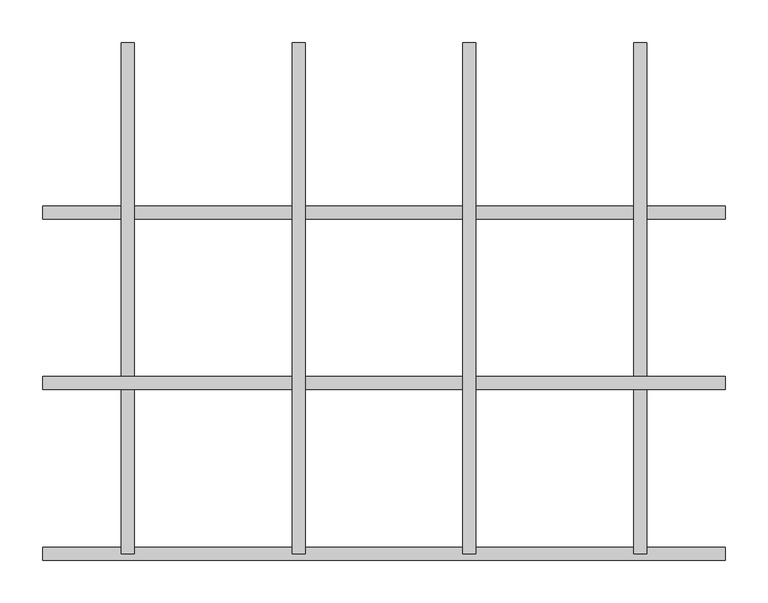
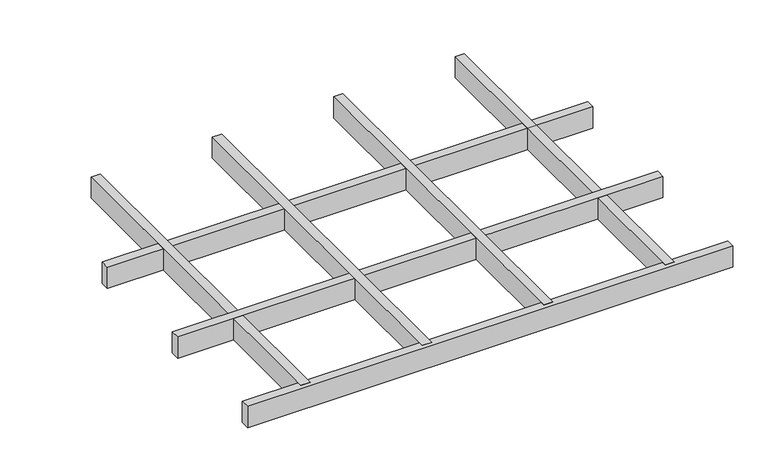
"""IFC4 building model written with IfcOpenShell, lengths in millimetres: proxy geometry, durlum_GEO_panel : durlum_GEO_15_length_cut."""

from ifc_helpers import new_model, si_unit, origin, origin_with_axes, place, context, project, spatial, polyline, outline, extrude, source, transform, mapped, element, save


def generic_models_711bea8a(model_context):
    return source(origin(), model_context, "Body", "SweptSolid", [
        extrude(outline(polyline([(92.5, 299.5), (107.5, 299.5), (107.5, -299.5), (92.5, -299.5), (92.5, 299.5)])), origin_with_axes(), (0.0, 0.0, 1.0), 37.0),
        extrude(outline(polyline([(-107.5, 299.5), (-92.5, 299.5), (-92.5, -299.5), (-107.5, -299.5), (-107.5, 299.5)])), origin_with_axes(), (0.0, 0.0, 1.0), 37.0),
        extrude(outline(polyline([(399.75, -92.0), (399.75, -107.0), (-399.75, -107.0), (-399.75, -92.0), (399.75, -92.0)])), origin_with_axes(), (0.0, 0.0, 1.0), 37.0),
        extrude(outline(polyline([(292.5, 299.5), (307.5, 299.5), (307.5, -299.5), (292.5, -299.5), (292.5, 299.5)])), origin_with_axes(), (0.0, 0.0, 1.0), 37.0),
        extrude(outline(polyline([(-307.5, 299.5), (-292.5, 299.5), (-292.5, -299.5), (-307.5, -299.5), (-307.5, 299.5)])), origin_with_axes(), (0.0, 0.0, 1.0), 37.0),
        extrude(outline(polyline([(399.75, -292.0), (399.75, -307.0), (-399.75, -307.0), (-399.75, -292.0), (399.75, -292.0)])), origin_with_axes(), (0.0, 0.0, 1.0), 37.0),
        extrude(outline(polyline([(399.75, 108.0), (399.75, 93.0), (-399.75, 93.0), (-399.75, 108.0), (399.75, 108.0)])), origin_with_axes(), (0.0, 0.0, 1.0), 37.0),
    ])


if __name__ == "__main__":
    model = new_model("IFC4")
    model_context = context("Model", 3, world=origin())
    ifc_project = project(units=[si_unit("LENGTHUNIT", "METRE", prefix="MILLI")], contexts=[model_context])
    site = spatial("IfcSite", under=ifc_project)
    building = spatial("IfcBuilding", under=site)
    placement = place(None, origin())
    generic_models_shape = generic_models_711bea8a(model_context)
    element("IfcBuildingElementProxy", 1, Name="durlum_GEO_panel : durlum_GEO_15_length_cut", ObjectType="durlum_GEO_panel : durlum_GEO_15_length_cut", at=placement, inside=building, context=model_context, shape_type="MappedRepresentation", body=[
        mapped(generic_models_shape, transform((0.0, 0.0, 0.0), x_axis=(1.0, 0.0, 0.0), y_axis=(0.0, 1.0, 0.0), z_axis=(0.0, 0.0, 1.0))),
    ])
    save(model, "model.ifc")
